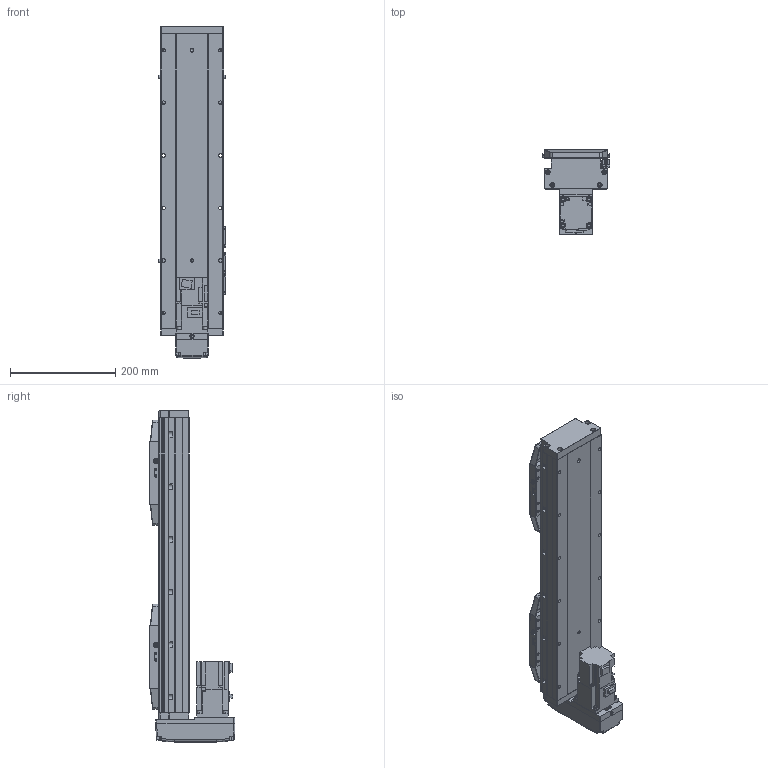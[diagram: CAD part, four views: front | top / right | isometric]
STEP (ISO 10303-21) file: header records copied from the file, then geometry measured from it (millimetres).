
FILE_DESCRIPTION (( 'STEP AP203' ), '1' );
FILE_NAME ('50.STEP', '2022-08-03T09:09:53', ( '' ), ( '' ), 'SwSTEP 2.0', 'SolidWorks 2016', '' );
FILE_SCHEMA (( 'CONFIG_CONTROL_DESIGN' ));
Length unit declared in the file: millimetre
Products named in the file (10): CTH12S-BL-01; 50; CTH12S-BL-05; CTH12S-BL-04; CTH12S-BL-07; CTH12S-BL-菁釱; CTH12S-BL-T40; CTH12S-BM-02; CTH12S-BL-HZ; PM-Y45
Assembly tree (15 placements, depth 2):
  50
    CTH12S-BL-菁釱
    CTH12S-BL-01
    CTH12S-BL-04
    CTH12S-BL-05  x2
    CTH12S-BL-07  x3
    CTH12S-BL-HZ  x2
    CTH12S-BL-T40
    PM-Y45  x3
    CTH12S-BM-02
Bounding box: 129 x 162.5 x 631.5 mm (x, y, z)
Volume: 4465474 mm3; surface area: 591228.2 mm2
Topology: 36 solids, 36 shells, 2445 faces, 6340 edges, 4017 vertices
Faces by surface type: plane 1240, cylinder 692, cone 298, bspline 215
Entity records: 61879 total; most frequent: CARTESIAN_POINT 19022, ORIENTED_EDGE 8910, DIRECTION 8162, EDGE_CURVE 4455, VERTEX_POINT 2875, LINE 2860, VECTOR 2860, AXIS2_PLACEMENT_3D 2651
